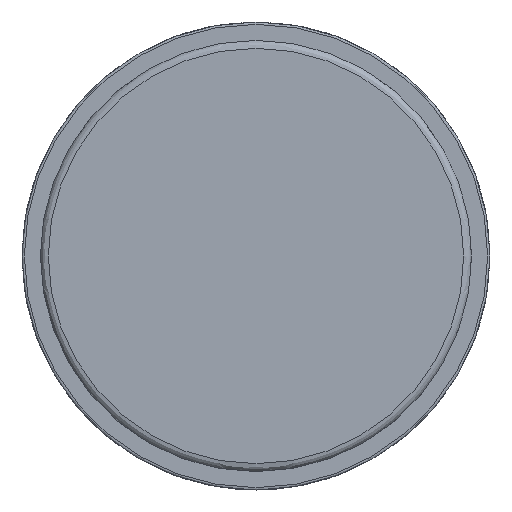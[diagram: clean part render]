
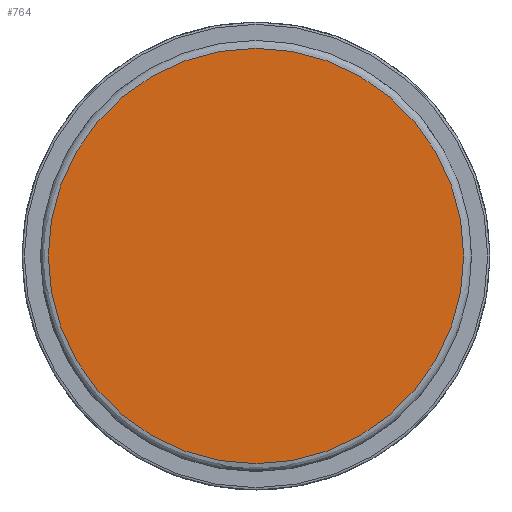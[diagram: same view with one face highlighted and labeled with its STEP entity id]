
A CAD part, left-side view. The second image highlights one B-rep face of the part: STEP entity #764.
In plain terms, the highlighted planar face has unit normal (-1, 0, 0).
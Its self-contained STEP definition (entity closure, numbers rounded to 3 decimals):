
#739=CARTESIAN_POINT('',(-525.437,-421.809,-66.3));
#740=DIRECTION('',(-1.0,0.0,0.0));
#741=DIRECTION('',(0.0,-1.0,0.0));
#742=AXIS2_PLACEMENT_3D('',#739,#740,#741);
#743=PLANE('',#742);
#744=CARTESIAN_POINT('',(-525.437,-541.359,0.0));
#745=VERTEX_POINT('',#744);
#746=CARTESIAN_POINT('',(-525.437,-434.859,0.0));
#747=VERTEX_POINT('',#746);
#748=CARTESIAN_POINT('',(-525.437,-488.109,0.0));
#749=DIRECTION('',(-1.0,0.0,0.0));
#750=DIRECTION('',(0.0,-1.0,0.0));
#751=AXIS2_PLACEMENT_3D('',#748,#749,#750);
#752=CIRCLE('',#751,53.25);
#753=EDGE_CURVE('',#745,#747,#752,.T.);
#754=ORIENTED_EDGE('',*,*,#753,.T.);
#755=CARTESIAN_POINT('',(-525.437,-488.109,0.0));
#756=DIRECTION('',(-1.0,0.0,0.0));
#757=DIRECTION('',(0.0,-1.0,0.0));
#758=AXIS2_PLACEMENT_3D('',#755,#756,#757);
#759=CIRCLE('',#758,53.25);
#760=EDGE_CURVE('',#747,#745,#759,.T.);
#761=ORIENTED_EDGE('',*,*,#760,.T.);
#762=EDGE_LOOP('',(#754,#761));
#763=FACE_OUTER_BOUND('',#762,.T.);
#764=ADVANCED_FACE('',(#763),#743,.T.);
